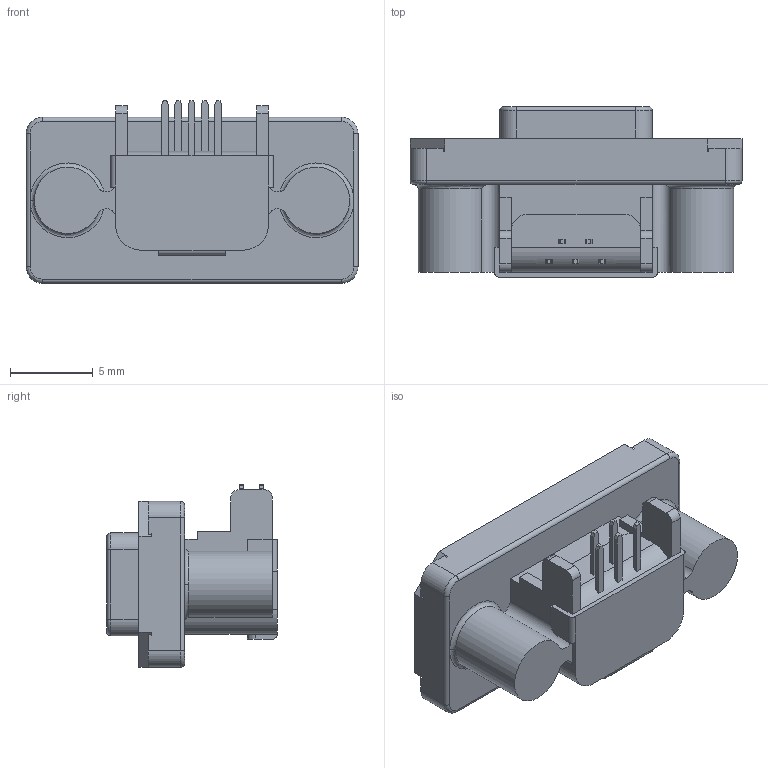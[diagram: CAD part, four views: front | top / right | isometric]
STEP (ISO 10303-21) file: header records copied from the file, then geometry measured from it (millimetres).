
FILE_DESCRIPTION (( 'STEP AP214' ), '1' );
FILE_NAME ('M-MUSB-B151-34-REVT2.STEP', '2015-03-11T15:46:28', ( '' ), ( '' ), 'SwSTEP 2.0', 'SolidWorks 2014', '' );
FILE_SCHEMA (( 'AUTOMOTIVE_DESIGN' ));
Length unit declared in the file: millimetre
Products named in the file (1): M-MUSB-B151-34-REVT2
Bounding box: 20 x 10.28 x 11 mm (x, y, z)
Volume: 929 mm3; surface area: 1655.8 mm2
Topology: 1 solids, 1 shells, 647 faces, 1811 edges, 1168 vertices
Faces by surface type: plane 389, cylinder 175, bspline 71, cone 12
Full cylindrical faces by diameter (mm): 1.778 x2, 2.5 x2
Entity records: 24074 total; most frequent: CARTESIAN_POINT 7658, ORIENTED_EDGE 3602, DIRECTION 3153, EDGE_CURVE 1801, LINE 1297, VECTOR 1297, VERTEX_POINT 1166, AXIS2_PLACEMENT_3D 928
